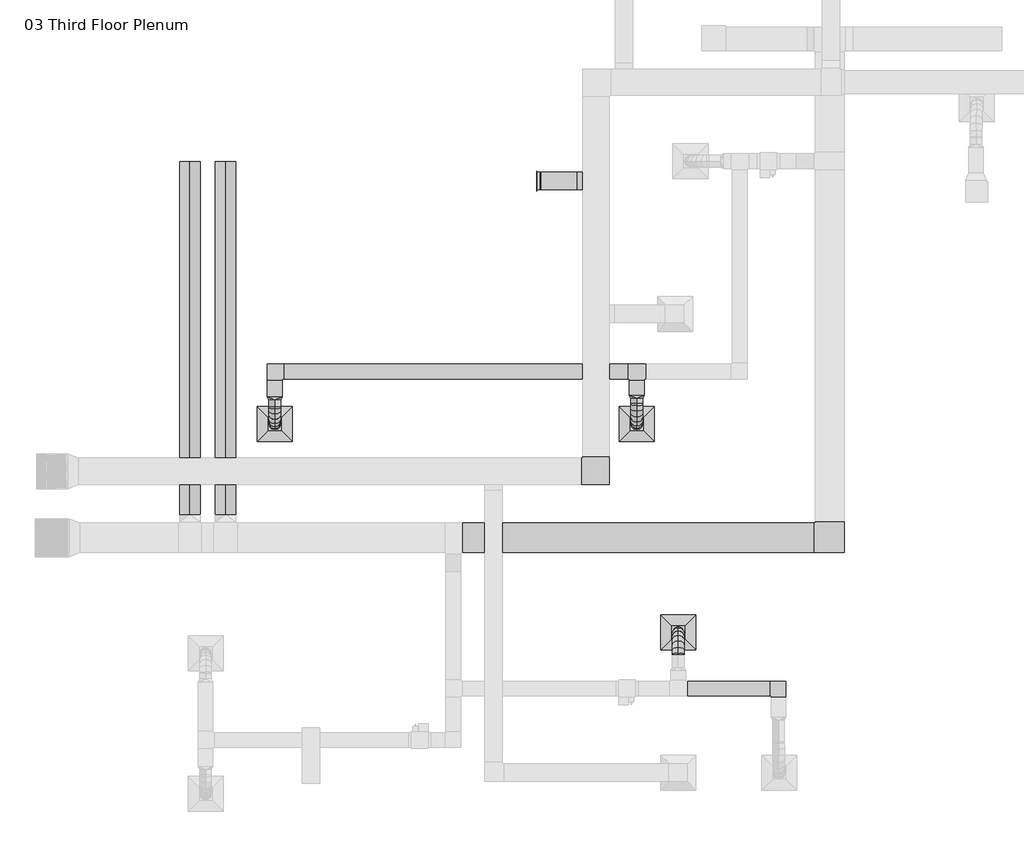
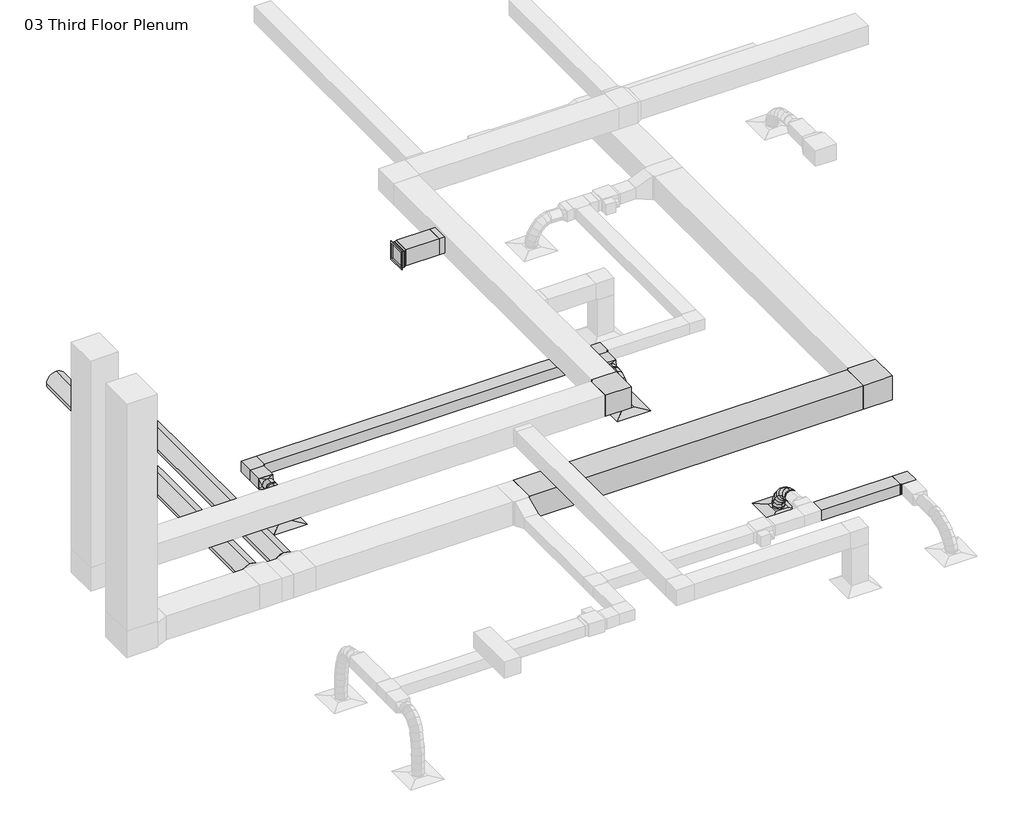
# One storey, part 3 of 9: 14 duct segments, 9 duct fittings, 4 air terminals.
"""IFC4 building model written with IfcOpenShell, lengths in millimetres."""

from ifc_helpers import new_model, si_unit, point, frame, frame_2d, origin, place, context, project, spatial, polyline, circle_curve, ellipse_curve, trimmed, segment, composite_curve, outline, extrude, transform, mapped, element, save
from ifc_brep_helpers import plane_surface, cylinder_surface, advanced_brep
from components import return_grille_rectangular_hosted_d30_returngrille_5679211a, supply_diffuser_rectangular_face_round_neck_d30_6390248a, rectangular_elbow_mitered_standard_f09b78ec, rectangular_elbow_mitered_standard_946096ac, rectangular_elbow_mitered_standard_3a774ab6, rectangular_takeoff_standard_087f681d, rectangular_tee_standard_b316833c, rectangular_transition_angle_45_degree_1f531e5f, rectangular_to_round_transition_angle_45_degree_e9430680

model = new_model("IFC4")

# Units and contexts
model_context = context("Model", 3, world=origin())
ifc_project = project(units=[si_unit("LENGTHUNIT", "METRE", prefix="MILLI")], contexts=[model_context])

# Site, building, storey
site = spatial("IfcSite", under=ifc_project)
building = spatial("IfcBuilding", under=site)
storey = spatial("IfcBuildingStorey", under=building, Name="03 Third Floor Plenum", Elevation=7620.0)

# Air terminals
placement = place(None, origin())
return_grille_rectangular_hosted_d30_returngrille_shape = return_grille_rectangular_hosted_d30_returngrille_5679211a(model_context)
element("IfcAirTerminal", 1, ObjectType="Return Grille - Rectangular - Hosted : D30_ReturnGrille", at=placement, inside=storey, context=model_context, shape_type="MappedRepresentation", body=[
    mapped(return_grille_rectangular_hosted_d30_returngrille_shape, transform((-8996.1542617, 4844.6964495, 8592.9638841), x_axis=(0.0, 0.0, 1.0), y_axis=(0.0, 1.0, 0.0), z_axis=(-1.0, 0.0, 0.0))),
])
supply_diffuser_rectangular_face_round_neck_d30_shape = supply_diffuser_rectangular_face_round_neck_d30_6390248a(model_context)
element("IfcAirTerminal", 2, ObjectType="Supply Diffuser - Rectangular Face Round Neck : D30_SupplyDiffuser_24x24 8 Neck", at=placement, inside=storey, context=model_context, shape_type="MappedRepresentation", body=[
    mapped(supply_diffuser_rectangular_face_round_neck_d30_shape, transform((-7262.3576996, 624.7206694, 7620.0), x_axis=(1.0, 0.0, 0.0), y_axis=(0.0, 1.0, 0.0), z_axis=(0.0, 0.0, 1.0))),
])
element("IfcAirTerminal", 3, ObjectType="Supply Diffuser - Rectangular Face Round Neck : D30_SupplyDiffuser_24x24 8 Neck", at=placement, inside=storey, context=model_context, shape_type="MappedRepresentation", body=[
    mapped(supply_diffuser_rectangular_face_round_neck_d30_shape, transform((-13550.923366, 624.7206694, 7620.0), x_axis=(1.0, 0.0, 0.0), y_axis=(0.0, 1.0, 0.0), z_axis=(0.0, 0.0, 1.0))),
])
element("IfcAirTerminal", 4, ObjectType="Supply Diffuser - Rectangular Face Round Neck : D30_SupplyDiffuser_24x24 8 Neck", at=placement, inside=storey, context=model_context, shape_type="MappedRepresentation", body=[
    mapped(supply_diffuser_rectangular_face_round_neck_d30_shape, transform((-6540.6685181, -2999.7828325, 7620.0), x_axis=(1.0, 0.0, 0.0), y_axis=(0.0, 1.0, 0.0), z_axis=(0.0, 0.0, 1.0))),
])

# Duct fittings
rectangular_elbow_mitered_standard_shape = rectangular_elbow_mitered_standard_f09b78ec(model_context)
element("IfcDuctFitting", 5, ObjectType="Rectangular Elbow - Mitered : Standard", at=placement, inside=storey, context=model_context, shape_type="MappedRepresentation", body=[
    mapped(rectangular_elbow_mitered_standard_shape, transform((-13550.923366, 1533.3101985, 8077.2), x_axis=(-1.0, 0.0, 0.0), y_axis=(0.0, -1.0, 0.0), z_axis=(0.0, 0.0, 1.0))),
])
element("IfcDuctFitting", 6, ObjectType="Rectangular Elbow - Mitered : Standard", at=placement, inside=storey, context=model_context, shape_type="MappedRepresentation", body=[
    mapped(rectangular_elbow_mitered_standard_shape, transform((-4797.9653729, -3975.0664214, 8077.2), x_axis=(0.0, 1.0, 0.0), y_axis=(-1.0, 0.0, 0.0), z_axis=(0.0, 0.0, 1.0))),
])
rectangular_elbow_mitered_standard_2_shape = rectangular_elbow_mitered_standard_946096ac(model_context)
element("IfcDuctFitting", 7, ObjectType="Rectangular Elbow - Mitered : Standard", at=placement, inside=storey, context=model_context, shape_type="MappedRepresentation", body=[
    mapped(rectangular_elbow_mitered_standard_2_shape, transform((-3908.2167617, -1355.9265825, 8077.2), x_axis=(1.0, 0.0, 0.0), y_axis=(0.0, 1.0, 0.0), z_axis=(0.0, 0.0, 1.0))),
])
rectangular_elbow_mitered_standard_3_shape = rectangular_elbow_mitered_standard_3a774ab6(model_context)
element("IfcDuctFitting", 8, ObjectType="Rectangular Elbow - Mitered : Standard", at=placement, inside=storey, context=model_context, shape_type="MappedRepresentation", body=[
    mapped(rectangular_elbow_mitered_standard_3_shape, transform((-7972.5142705, -201.3156743, 8610.6), x_axis=(1.0, 0.0, 0.0), y_axis=(0.0, 1.0, 0.0), z_axis=(0.0, 0.0, 1.0))),
])
rectangular_takeoff_standard_shape = rectangular_takeoff_standard_087f681d(model_context)
element("IfcDuctFitting", 9, ObjectType="Rectangular Takeoff : Standard", at=placement, inside=storey, context=model_context, shape_type="MappedRepresentation", body=[
    mapped(rectangular_takeoff_standard_shape, transform((-8201.1142705, 4844.6964495, 8610.6), x_axis=(-1.0, 0.0, 0.0), y_axis=(0.0, 1.0, 0.0), z_axis=(0.0, 0.0, -1.0))),
])
rectangular_tee_standard_shape = rectangular_tee_standard_b316833c(model_context)
element("IfcDuctFitting", 10, ObjectType="Rectangular Tee : Standard", at=placement, inside=storey, context=model_context, shape_type="MappedRepresentation", body=[
    mapped(rectangular_tee_standard_shape, transform((-7262.3576996, 1533.3101985, 8077.2), x_axis=(1.0, 0.0, 0.0), y_axis=(0.0, 1.0, 0.0), z_axis=(0.0, 0.0, 1.0))),
])
rectangular_transition_angle_45_degree_shape = rectangular_transition_angle_45_degree_1f531e5f(model_context)
element("IfcDuctFitting", 11, ObjectType="Rectangular Transition - Angle : 45 Degree", at=placement, inside=storey, context=model_context, shape_type="MappedRepresentation", body=[
    mapped(rectangular_transition_angle_45_degree_shape, transform((-8944.0642705, 4844.6964495, 8592.9638841), x_axis=(1.0, 0.0, 0.0), y_axis=(0.0, 0.0, -1.0), z_axis=(0.0, 1.0, 0.0))),
])
rectangular_to_round_transition_angle_45_degree_shape = rectangular_to_round_transition_angle_45_degree_e9430680(model_context)
element("IfcDuctFitting", 12, ObjectType="Rectangular to Round Transition - Angle : 45 Degree", at=placement, inside=storey, context=model_context, shape_type="MappedRepresentation", body=[
    mapped(rectangular_to_round_transition_angle_45_degree_shape, transform((-7262.3576996, 1126.9101985, 8077.2), x_axis=(0.0, -1.0, 0.0), y_axis=(1.0, 0.0, 0.0), z_axis=(0.0, 0.0, 1.0))),
])
element("IfcDuctFitting", 13, ObjectType="Rectangular to Round Transition - Angle : 45 Degree", at=placement, inside=storey, context=model_context, shape_type="MappedRepresentation", body=[
    mapped(rectangular_to_round_transition_angle_45_degree_shape, transform((-13550.923366, 1101.5101985, 8077.2), x_axis=(0.0, -1.0, 0.0), y_axis=(1.0, 0.0, 0.0), z_axis=(0.0, 0.0, 1.0))),
])

# Duct segments
element("IfcDuctSegment", 14, ObjectType="Flex - Round", at=placement, inside=storey, context=model_context, shape_type="AdvancedBrep", body=[
    advanced_brep(
    [(-7160.7576996, 974.5101985, 8077.2), (-7262.3576996, 974.5101985, 7975.6), (-7363.9576996, 974.5101985, 8077.2), (-7262.3576996, 974.5101985, 8178.8), (-7160.7576996, 954.6137948, 8077.2), (-7262.3576996, 967.523729, 7975.6), (-7363.9576996, 954.6137948, 8077.2), (-7262.3576996, 941.7038606, 8178.8), (-7160.7576996, 624.7206694, 7673.975), (-7262.3576996, 523.1206694, 7673.975), (-7363.9576996, 624.7206694, 7673.975), (-7262.3576996, 726.3206694, 7673.975), (-7160.7576996, 886.8173824, 8059.6879776), (-7262.3576996, 925.6757316, 7964.7905332), (-7363.9576996, 886.8173824, 8059.6879776), (-7262.3576996, 847.9590332, 8154.585422), (-7160.7576996, 804.7424491, 8012.2009728), (-7262.3576996, 866.5409581, 7930.5762712), (-7363.9576996, 804.7424491, 8012.2009728), (-7262.3576996, 742.9439401, 8093.8256744), (-7160.7576996, 732.8903549, 7942.3125791), (-7262.3576996, 811.2876614, 7876.8330338), (-7363.9576996, 732.8903549, 7942.3125791), (-7262.3576996, 654.4930484, 8007.7921243), (-7160.7576996, 675.866056, 7857.59639), (-7262.3576996, 765.9701374, 7809.5086123), (-7363.9576996, 675.866056, 7857.59639), (-7262.3576996, 585.7619746, 7905.6841677), (-7160.7576996, 638.2745087, 7765.6259991), (-7262.3576996, 736.4371349, 7737.2540239), (-7363.9576996, 638.2745087, 7765.6259991), (-7262.3576996, 540.1118825, 7793.9979744), (-7160.7576996, 624.7206694, 7688.8384969), (-7262.3576996, 726.3206694, 7679.9405129), (-7363.9576996, 624.7206694, 7688.8384969), (-7262.3576996, 523.1206694, 7697.736481)],
    [
        (0, 1, circle_curve(frame((-7262.3576996, 974.5101985, 8077.2), z_axis=(0.0, 1.0, 0.0), x_axis=(1.0, 0.0, 0.0)), 101.6)),
        (1, 2, circle_curve(frame((-7262.3576996, 974.5101985, 8077.2), z_axis=(0.0, 1.0, 0.0), x_axis=(1.0, 0.0, 0.0)), 101.6)),
        (2, 3, circle_curve(frame((-7262.3576996, 974.5101985, 8077.2), z_axis=(0.0, 1.0, 0.0), x_axis=(1.0, 0.0, 0.0)), 101.6)),
        (3, 0, circle_curve(frame((-7262.3576996, 974.5101985, 8077.2), z_axis=(0.0, 1.0, 0.0), x_axis=(1.0, 0.0, 0.0)), 101.6)),
        (0, 4),
        (4, 5, ellipse_curve(frame((-7262.3576996, 954.6137948, 8077.2), z_axis=(0.0, 0.9920235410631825, 0.12605274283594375), x_axis=(0.0, 0.1260527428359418, -0.9920235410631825)), 102.4169244, 101.6)),
        (5, 1),
        (5, 6, ellipse_curve(frame((-7262.3576996, 954.6137948, 8077.2), z_axis=(0.0, 0.9920235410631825, 0.12605274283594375), x_axis=(0.0, 0.1260527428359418, -0.9920235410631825)), 102.4169244, 101.6)),
        (6, 2),
        (6, 7, ellipse_curve(frame((-7262.3576996, 954.6137948, 8077.2), z_axis=(0.0, 0.9920235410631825, 0.12605274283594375), x_axis=(0.0, 0.1260527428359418, -0.9920235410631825)), 102.4169244, 101.6)),
        (7, 3),
        (7, 4, ellipse_curve(frame((-7262.3576996, 954.6137948, 8077.2), z_axis=(0.0, 0.9920235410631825, 0.12605274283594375), x_axis=(0.0, 0.1260527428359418, -0.9920235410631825)), 102.4169244, 101.6)),
        (8, 9, circle_curve(frame((-7262.3576996, 624.7206694, 7673.975), z_axis=(0.0, 0.0, -1.0), x_axis=(1.0, 0.0, 0.0)), 101.6)),
        (9, 10, circle_curve(frame((-7262.3576996, 624.7206694, 7673.975), z_axis=(0.0, 0.0, -1.0), x_axis=(1.0, 0.0, 0.0)), 101.6)),
        (10, 11, circle_curve(frame((-7262.3576996, 624.7206694, 7673.975), z_axis=(0.0, 0.0, -1.0), x_axis=(1.0, 0.0, 0.0)), 101.6)),
        (11, 8, circle_curve(frame((-7262.3576996, 624.7206694, 7673.975), z_axis=(0.0, 0.0, -1.0), x_axis=(1.0, 0.0, 0.0)), 101.6)),
        (4, 12),
        (12, 13, ellipse_curve(frame((-7262.3576996, 886.8173824, 8059.6879776), z_axis=(0.0, 0.9254215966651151, 0.37893913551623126), x_axis=(0.0, 0.37893913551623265, -0.9254215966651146)), 102.5450938, 101.6)),
        (13, 5),
        (13, 14, ellipse_curve(frame((-7262.3576996, 886.8173824, 8059.6879776), z_axis=(0.0, 0.9254215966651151, 0.37893913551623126), x_axis=(0.0, 0.37893913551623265, -0.9254215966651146)), 102.5450938, 101.6)),
        (14, 6),
        (14, 15, ellipse_curve(frame((-7262.3576996, 886.8173824, 8059.6879776), z_axis=(0.0, 0.9254215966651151, 0.37893913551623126), x_axis=(0.0, 0.37893913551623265, -0.9254215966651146)), 102.5450938, 101.6)),
        (15, 7),
        (15, 12, ellipse_curve(frame((-7262.3576996, 886.8173824, 8059.6879776), z_axis=(0.0, 0.9254215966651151, 0.37893913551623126), x_axis=(0.0, 0.37893913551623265, -0.9254215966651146)), 102.5450938, 101.6)),
        (12, 16),
        (16, 17, ellipse_curve(frame((-7262.3576996, 804.7424491, 8012.2009728), z_axis=(0.0, 0.7972725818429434, 0.6036194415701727), x_axis=(0.0, 0.6036194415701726, -0.7972725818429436)), 102.3799181, 101.6)),
        (17, 13),
        (17, 18, ellipse_curve(frame((-7262.3576996, 804.7424491, 8012.2009728), z_axis=(0.0, 0.7972725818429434, 0.6036194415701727), x_axis=(0.0, 0.6036194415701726, -0.7972725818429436)), 102.3799181, 101.6)),
        (18, 14),
        (18, 19, ellipse_curve(frame((-7262.3576996, 804.7424491, 8012.2009728), z_axis=(0.0, 0.7972725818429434, 0.6036194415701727), x_axis=(0.0, 0.6036194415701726, -0.7972725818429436)), 102.3799181, 101.6)),
        (19, 15),
        (19, 16, ellipse_curve(frame((-7262.3576996, 804.7424491, 8012.2009728), z_axis=(0.0, 0.7972725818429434, 0.6036194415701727), x_axis=(0.0, 0.6036194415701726, -0.7972725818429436)), 102.3799181, 101.6)),
        (16, 20),
        (20, 21, ellipse_curve(frame((-7262.3576996, 732.8903549, 7942.3125791), z_axis=(0.0, 0.6410417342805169, 0.7675060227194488), x_axis=(0.0, 0.7675060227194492, -0.6410417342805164)), 102.1455262, 101.6)),
        (21, 17),
        (21, 22, ellipse_curve(frame((-7262.3576996, 732.8903549, 7942.3125791), z_axis=(0.0, 0.6410417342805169, 0.7675060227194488), x_axis=(0.0, 0.7675060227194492, -0.6410417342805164)), 102.1455262, 101.6)),
        (22, 18),
        (22, 23, ellipse_curve(frame((-7262.3576996, 732.8903549, 7942.3125791), z_axis=(0.0, 0.6410417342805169, 0.7675060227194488), x_axis=(0.0, 0.7675060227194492, -0.6410417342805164)), 102.1455262, 101.6)),
        (23, 19),
        (23, 20, ellipse_curve(frame((-7262.3576996, 732.8903549, 7942.3125791), z_axis=(0.0, 0.6410417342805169, 0.7675060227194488), x_axis=(0.0, 0.7675060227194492, -0.6410417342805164)), 102.1455262, 101.6)),
        (20, 24),
        (24, 25, ellipse_curve(frame((-7262.3576996, 675.866056, 7857.59639), z_axis=(0.0, 0.4708341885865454, 0.8822217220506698), x_axis=(0.0, 0.8822217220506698, -0.4708341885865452)), 102.1331476, 101.6)),
        (25, 21),
        (25, 26, ellipse_curve(frame((-7262.3576996, 675.866056, 7857.59639), z_axis=(0.0, 0.4708341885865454, 0.8822217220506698), x_axis=(0.0, 0.8822217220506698, -0.4708341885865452)), 102.1331476, 101.6)),
        (26, 22),
        (26, 27, ellipse_curve(frame((-7262.3576996, 675.866056, 7857.59639), z_axis=(0.0, 0.4708341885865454, 0.8822217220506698), x_axis=(0.0, 0.8822217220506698, -0.4708341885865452)), 102.1331476, 101.6)),
        (27, 23),
        (27, 24, ellipse_curve(frame((-7262.3576996, 675.866056, 7857.59639), z_axis=(0.0, 0.4708341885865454, 0.8822217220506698), x_axis=(0.0, 0.8822217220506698, -0.4708341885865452)), 102.1331476, 101.6)),
        (24, 28),
        (28, 29, ellipse_curve(frame((-7262.3576996, 638.2745087, 7765.6259991), z_axis=(0.0, 0.27766505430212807, 0.9606779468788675), x_axis=(0.0, 0.9606779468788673, -0.27766505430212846)), 102.1805762, 101.6)),
        (29, 25),
        (29, 30, ellipse_curve(frame((-7262.3576996, 638.2745087, 7765.6259991), z_axis=(0.0, 0.27766505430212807, 0.9606779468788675), x_axis=(0.0, 0.9606779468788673, -0.27766505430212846)), 102.1805762, 101.6)),
        (30, 26),
        (30, 31, ellipse_curve(frame((-7262.3576996, 638.2745087, 7765.6259991), z_axis=(0.0, 0.27766505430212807, 0.9606779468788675), x_axis=(0.0, 0.9606779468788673, -0.27766505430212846)), 102.1805762, 101.6)),
        (31, 27),
        (31, 28, ellipse_curve(frame((-7262.3576996, 638.2745087, 7765.6259991), z_axis=(0.0, 0.27766505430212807, 0.9606779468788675), x_axis=(0.0, 0.9606779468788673, -0.27766505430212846)), 102.1805762, 101.6)),
        (28, 32),
        (32, 33, ellipse_curve(frame((-7262.3576996, 624.7206694, 7688.8384969), z_axis=(0.0, 0.08724463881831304, 0.9961869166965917), x_axis=(0.0, 0.9961869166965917, -0.08724463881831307)), 101.9888921, 101.6)),
        (33, 29),
        (33, 34, ellipse_curve(frame((-7262.3576996, 624.7206694, 7688.8384969), z_axis=(0.0, 0.08724463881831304, 0.9961869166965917), x_axis=(0.0, 0.9961869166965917, -0.08724463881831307)), 101.9888921, 101.6)),
        (34, 30),
        (34, 35, ellipse_curve(frame((-7262.3576996, 624.7206694, 7688.8384969), z_axis=(0.0, 0.08724463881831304, 0.9961869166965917), x_axis=(0.0, 0.9961869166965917, -0.08724463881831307)), 101.9888921, 101.6)),
        (35, 31),
        (35, 32, ellipse_curve(frame((-7262.3576996, 624.7206694, 7688.8384969), z_axis=(0.0, 0.08724463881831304, 0.9961869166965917), x_axis=(0.0, 0.9961869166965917, -0.08724463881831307)), 101.9888921, 101.6)),
        (32, 8),
        (11, 33),
        (10, 34),
        (9, 35),
    ],
    [
        plane_surface(frame((-7363.9576996, 974.5101985, 8077.2), z_axis=(0.0, 1.0, 0.0), x_axis=(0.0, 0.0, -1.0))),
        cylinder_surface(frame((-7262.3576996, 974.5101985, 8077.2), z_axis=(0.0, 1.0, 0.0), x_axis=(1.0, 0.0, 0.0)), 101.6),
        plane_surface(frame((-7262.3576996, 523.1206694, 7673.975), z_axis=(0.0, 0.0, -1.0), x_axis=(-1.0, 0.0, 0.0))),
        cylinder_surface(frame((-7262.3576996, 954.6137948, 8077.2), z_axis=(0.0, 0.9682214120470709, 0.2500945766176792), x_axis=(1.0, 0.0, 0.0)), 101.6),
        cylinder_surface(frame((-7262.3576996, 886.8173824, 8059.6879776), z_axis=(0.0, 0.8655637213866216, 0.5007988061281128), x_axis=(1.0, 0.0, 0.0)), 101.6),
        cylinder_surface(frame((-7262.3576996, 804.7424491, 8012.2009728), z_axis=(0.0, 0.7168343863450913, 0.6972434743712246), x_axis=(1.0, 0.0, 0.0)), 101.6),
        cylinder_surface(frame((-7262.3576996, 732.8903549, 7942.3125791), z_axis=(0.0, 0.5584018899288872, 0.8295705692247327), x_axis=(1.0, 0.0, 0.0)), 101.6),
        cylinder_surface(frame((-7262.3576996, 675.866056, 7857.59639), z_axis=(0.0, 0.3783508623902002, 0.925662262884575), x_axis=(1.0, 0.0, 0.0)), 101.6),
        cylinder_surface(frame((-7262.3576996, 638.2745087, 7765.6259991), z_axis=(0.0, 0.1738239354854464, 0.9847767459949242), x_axis=(1.0, 0.0, 0.0)), 101.6),
        cylinder_surface(frame((-7262.3576996, 624.7206694, 7688.8384969), z_axis=(0.0, 0.0, 1.0), x_axis=(1.0, 0.0, 0.0)), 101.6),
    ],
    [
        (0, [[1, 2, 3, 4]]),
        (1, [[-1, 5, 6, 7]]),
        (1, [[-2, -7, 8, 9]]),
        (1, [[-3, -9, 10, 11]]),
        (1, [[-4, -11, 12, -5]]),
        (2, [[13, 14, 15, 16]]),
        (3, [[-6, 17, 18, 19]]),
        (3, [[-8, -19, 20, 21]]),
        (3, [[-10, -21, 22, 23]]),
        (3, [[-12, -23, 24, -17]]),
        (4, [[-18, 25, 26, 27]]),
        (4, [[-20, -27, 28, 29]]),
        (4, [[-22, -29, 30, 31]]),
        (4, [[-24, -31, 32, -25]]),
        (5, [[-26, 33, 34, 35]]),
        (5, [[-28, -35, 36, 37]]),
        (5, [[-30, -37, 38, 39]]),
        (5, [[-32, -39, 40, -33]]),
        (6, [[-34, 41, 42, 43]]),
        (6, [[-36, -43, 44, 45]]),
        (6, [[-38, -45, 46, 47]]),
        (6, [[-40, -47, 48, -41]]),
        (7, [[-42, 49, 50, 51]]),
        (7, [[-44, -51, 52, 53]]),
        (7, [[-46, -53, 54, 55]]),
        (7, [[-48, -55, 56, -49]]),
        (8, [[-50, 57, 58, 59]]),
        (8, [[-52, -59, 60, 61]]),
        (8, [[-54, -61, 62, 63]]),
        (8, [[-56, -63, 64, -57]]),
        (9, [[-58, 65, -16, 66]]),
        (9, [[-60, -66, -15, 67]]),
        (9, [[-62, -67, -14, 68]]),
        (9, [[-64, -68, -13, -65]]),
    ],
),
])
element("IfcDuctSegment", 15, ObjectType="Flex - Round", at=placement, inside=storey, context=model_context, shape_type="AdvancedBrep", body=[
    advanced_brep(
    [(-13449.323366, 923.7101985, 8077.2), (-13550.923366, 923.7101985, 7975.6), (-13652.523366, 923.7101985, 8077.2), (-13550.923366, 923.7101985, 8178.8), (-13449.323366, 901.1810308, 8077.2), (-13550.923366, 916.8599025, 7975.6), (-13652.523366, 901.1810308, 8077.2), (-13550.923366, 885.5021591, 8178.8), (-13449.323366, 624.7206694, 7673.975), (-13550.923366, 523.1206694, 7673.975), (-13652.523366, 624.7206694, 7673.975), (-13550.923366, 726.3206694, 7673.975), (-13449.323366, 843.4631485, 8058.951417), (-13550.923366, 888.4705663, 7966.6241828), (-13652.523366, 843.4631485, 8058.951417), (-13550.923366, 798.4557307, 8151.2786511), (-13449.323366, 771.8268074, 8009.8439788), (-13550.923366, 840.6045983, 7933.8115764), (-13652.523366, 771.8268074, 8009.8439788), (-13550.923366, 703.0490166, 8085.8763812), (-13449.323366, 711.4677822, 7938.3351517), (-13550.923366, 795.7972224, 7880.7271723), (-13652.523366, 711.4677822, 7938.3351517), (-13550.923366, 627.138342, 7995.9431312), (-13449.323366, 665.0526796, 7852.8824021), (-13550.923366, 758.7301852, 7812.4847236), (-13652.523366, 665.0526796, 7852.8824021), (-13550.923366, 571.3751741, 7893.2800806), (-13449.323366, 635.2481064, 7761.9431961), (-13550.923366, 734.6327272, 7738.9589704), (-13652.523366, 635.2481064, 7761.9431961), (-13550.923366, 535.8634856, 7784.9274217), (-13449.323366, 624.7206694, 7686.0476558), (-13550.923366, 726.3206694, 7679.034782), (-13652.523366, 624.7206694, 7686.0476558), (-13550.923366, 523.1206694, 7693.0605297)],
    [
        (0, 1, circle_curve(frame((-13550.923366, 923.7101985, 8077.2), z_axis=(0.0, 1.0, 0.0), x_axis=(1.0, 0.0, 0.0)), 101.6)),
        (1, 2, circle_curve(frame((-13550.923366, 923.7101985, 8077.2), z_axis=(0.0, 1.0, 0.0), x_axis=(1.0, 0.0, 0.0)), 101.6)),
        (2, 3, circle_curve(frame((-13550.923366, 923.7101985, 8077.2), z_axis=(0.0, 1.0, 0.0), x_axis=(1.0, 0.0, 0.0)), 101.6)),
        (3, 0, circle_curve(frame((-13550.923366, 923.7101985, 8077.2), z_axis=(0.0, 1.0, 0.0), x_axis=(1.0, 0.0, 0.0)), 101.6)),
        (0, 4),
        (4, 5, ellipse_curve(frame((-13550.923366, 901.1810308, 8077.2), z_axis=(0.0, 0.9883012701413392, 0.15251425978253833), x_axis=(0.0, 0.15251425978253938, -0.9883012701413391)), 102.8026606, 101.6)),
        (5, 1),
        (5, 6, ellipse_curve(frame((-13550.923366, 901.1810308, 8077.2), z_axis=(0.0, 0.9883012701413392, 0.15251425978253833), x_axis=(0.0, 0.15251425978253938, -0.9883012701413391)), 102.8026606, 101.6)),
        (6, 2),
        (6, 7, ellipse_curve(frame((-13550.923366, 901.1810308, 8077.2), z_axis=(0.0, 0.9883012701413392, 0.15251425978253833), x_axis=(0.0, 0.15251425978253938, -0.9883012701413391)), 102.8026606, 101.6)),
        (7, 3),
        (7, 4, ellipse_curve(frame((-13550.923366, 901.1810308, 8077.2), z_axis=(0.0, 0.9883012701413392, 0.15251425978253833), x_axis=(0.0, 0.15251425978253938, -0.9883012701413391)), 102.8026606, 101.6)),
        (8, 9, circle_curve(frame((-13550.923366, 624.7206694, 7673.975), z_axis=(0.0, 0.0, -1.0), x_axis=(1.0, 0.0, 0.0)), 101.6)),
        (9, 10, circle_curve(frame((-13550.923366, 624.7206694, 7673.975), z_axis=(0.0, 0.0, -1.0), x_axis=(1.0, 0.0, 0.0)), 101.6)),
        (10, 11, circle_curve(frame((-13550.923366, 624.7206694, 7673.975), z_axis=(0.0, 0.0, -1.0), x_axis=(1.0, 0.0, 0.0)), 101.6)),
        (11, 8, circle_curve(frame((-13550.923366, 624.7206694, 7673.975), z_axis=(0.0, 0.0, -1.0), x_axis=(1.0, 0.0, 0.0)), 101.6)),
        (4, 12),
        (12, 13, ellipse_curve(frame((-13550.923366, 843.4631485, 8058.951417), z_axis=(0.0, 0.8988844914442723, 0.43818565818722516), x_axis=(0.0, 0.43818565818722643, -0.8988844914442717)), 102.7131239, 101.6)),
        (13, 5),
        (13, 14, ellipse_curve(frame((-13550.923366, 843.4631485, 8058.951417), z_axis=(0.0, 0.8988844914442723, 0.43818565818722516), x_axis=(0.0, 0.43818565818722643, -0.8988844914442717)), 102.7131239, 101.6)),
        (14, 6),
        (14, 15, ellipse_curve(frame((-13550.923366, 843.4631485, 8058.951417), z_axis=(0.0, 0.8988844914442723, 0.43818565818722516), x_axis=(0.0, 0.43818565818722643, -0.8988844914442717)), 102.7131239, 101.6)),
        (15, 7),
        (15, 12, ellipse_curve(frame((-13550.923366, 843.4631485, 8058.951417), z_axis=(0.0, 0.8988844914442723, 0.43818565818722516), x_axis=(0.0, 0.43818565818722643, -0.8988844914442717)), 102.7131239, 101.6)),
        (12, 16),
        (16, 17, ellipse_curve(frame((-13550.923366, 771.8268074, 8009.8439788), z_axis=(0.0, 0.7416009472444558, 0.6708412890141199), x_axis=(0.0, 0.6708412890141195, -0.741600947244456)), 102.5246835, 101.6)),
        (17, 13),
        (17, 18, ellipse_curve(frame((-13550.923366, 771.8268074, 8009.8439788), z_axis=(0.0, 0.7416009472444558, 0.6708412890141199), x_axis=(0.0, 0.6708412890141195, -0.741600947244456)), 102.5246835, 101.6)),
        (18, 14),
        (18, 19, ellipse_curve(frame((-13550.923366, 771.8268074, 8009.8439788), z_axis=(0.0, 0.7416009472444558, 0.6708412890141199), x_axis=(0.0, 0.6708412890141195, -0.741600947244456)), 102.5246835, 101.6)),
        (19, 15),
        (19, 16, ellipse_curve(frame((-13550.923366, 771.8268074, 8009.8439788), z_axis=(0.0, 0.7416009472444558, 0.6708412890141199), x_axis=(0.0, 0.6708412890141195, -0.741600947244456)), 102.5246835, 101.6)),
        (16, 20),
        (20, 21, ellipse_curve(frame((-13550.923366, 711.4677822, 7938.3351517), z_axis=(0.0, 0.5640761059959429, 0.8257228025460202), x_axis=(0.0, 0.8257228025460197, -0.5640761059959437)), 102.1280265, 101.6)),
        (21, 17),
        (21, 22, ellipse_curve(frame((-13550.923366, 711.4677822, 7938.3351517), z_axis=(0.0, 0.5640761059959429, 0.8257228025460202), x_axis=(0.0, 0.8257228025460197, -0.5640761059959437)), 102.1280265, 101.6)),
        (22, 18),
        (22, 23, ellipse_curve(frame((-13550.923366, 711.4677822, 7938.3351517), z_axis=(0.0, 0.5640761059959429, 0.8257228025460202), x_axis=(0.0, 0.8257228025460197, -0.5640761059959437)), 102.1280265, 101.6)),
        (23, 19),
        (23, 20, ellipse_curve(frame((-13550.923366, 711.4677822, 7938.3351517), z_axis=(0.0, 0.5640761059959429, 0.8257228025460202), x_axis=(0.0, 0.8257228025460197, -0.5640761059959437)), 102.1280265, 101.6)),
        (20, 24),
        (24, 25, ellipse_curve(frame((-13550.923366, 665.0526796, 7852.8824021), z_axis=(0.0, 0.39599006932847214, 0.9182547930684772), x_axis=(0.0, 0.918254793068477, -0.3959900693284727)), 102.016898, 101.6)),
        (25, 21),
        (25, 26, ellipse_curve(frame((-13550.923366, 665.0526796, 7852.8824021), z_axis=(0.0, 0.39599006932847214, 0.9182547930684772), x_axis=(0.0, 0.918254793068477, -0.3959900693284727)), 102.016898, 101.6)),
        (26, 22),
        (26, 27, ellipse_curve(frame((-13550.923366, 665.0526796, 7852.8824021), z_axis=(0.0, 0.39599006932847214, 0.9182547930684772), x_axis=(0.0, 0.918254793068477, -0.3959900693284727)), 102.016898, 101.6)),
        (27, 23),
        (27, 24, ellipse_curve(frame((-13550.923366, 665.0526796, 7852.8824021), z_axis=(0.0, 0.39599006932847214, 0.9182547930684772), x_axis=(0.0, 0.918254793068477, -0.3959900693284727)), 102.016898, 101.6)),
        (24, 28),
        (28, 29, ellipse_curve(frame((-13550.923366, 635.2481064, 7761.9431961), z_axis=(0.0, 0.22531846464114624, 0.9742851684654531), x_axis=(0.0, 0.9742851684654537, -0.22531846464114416)), 102.0077325, 101.6)),
        (29, 25),
        (29, 30, ellipse_curve(frame((-13550.923366, 635.2481064, 7761.9431961), z_axis=(0.0, 0.22531846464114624, 0.9742851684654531), x_axis=(0.0, 0.9742851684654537, -0.22531846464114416)), 102.0077325, 101.6)),
        (30, 26),
        (30, 31, ellipse_curve(frame((-13550.923366, 635.2481064, 7761.9431961), z_axis=(0.0, 0.22531846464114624, 0.9742851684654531), x_axis=(0.0, 0.9742851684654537, -0.22531846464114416)), 102.0077325, 101.6)),
        (31, 27),
        (31, 28, ellipse_curve(frame((-13550.923366, 635.2481064, 7761.9431961), z_axis=(0.0, 0.22531846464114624, 0.9742851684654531), x_axis=(0.0, 0.9742851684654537, -0.22531846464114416)), 102.0077325, 101.6)),
        (28, 32),
        (32, 33, ellipse_curve(frame((-13550.923366, 624.7206694, 7686.0476558), z_axis=(0.0, 0.06886050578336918, 0.9976262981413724), x_axis=(0.0, 0.9976262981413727, -0.06886050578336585)), 101.8417419, 101.6)),
        (33, 29),
        (33, 34, ellipse_curve(frame((-13550.923366, 624.7206694, 7686.0476558), z_axis=(0.0, 0.06886050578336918, 0.9976262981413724), x_axis=(0.0, 0.9976262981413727, -0.06886050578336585)), 101.8417419, 101.6)),
        (34, 30),
        (34, 35, ellipse_curve(frame((-13550.923366, 624.7206694, 7686.0476558), z_axis=(0.0, 0.06886050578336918, 0.9976262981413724), x_axis=(0.0, 0.9976262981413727, -0.06886050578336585)), 101.8417419, 101.6)),
        (35, 31),
        (35, 32, ellipse_curve(frame((-13550.923366, 624.7206694, 7686.0476558), z_axis=(0.0, 0.06886050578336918, 0.9976262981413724), x_axis=(0.0, 0.9976262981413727, -0.06886050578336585)), 101.8417419, 101.6)),
        (32, 8),
        (11, 33),
        (10, 34),
        (9, 35),
    ],
    [
        plane_surface(frame((-13652.523366, 923.7101985, 8077.2), z_axis=(0.0, 1.0, 0.0), x_axis=(0.0, 0.0, -1.0))),
        cylinder_surface(frame((-13550.923366, 923.7101985, 8077.2), z_axis=(0.0, 1.0, 0.0), x_axis=(1.0, 0.0, 0.0)), 101.6),
        plane_surface(frame((-13550.923366, 523.1206694, 7673.975), z_axis=(0.0, 0.0, -1.0), x_axis=(-1.0, 0.0, 0.0))),
        cylinder_surface(frame((-13550.923366, 901.1810308, 8077.2), z_axis=(0.0, 0.9534788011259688, 0.3014600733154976), x_axis=(1.0, 0.0, 0.0)), 101.6),
        cylinder_surface(frame((-13550.923366, 843.4631485, 8058.951417), z_axis=(0.0, 0.8248073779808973, 0.5654138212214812), x_axis=(1.0, 0.0, 0.0)), 101.6),
        cylinder_surface(frame((-13550.923366, 771.8268074, 8009.8439788), z_axis=(0.0, 0.6450173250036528, 0.7641679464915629), x_axis=(1.0, 0.0, 0.0)), 101.6),
        cylinder_surface(frame((-13550.923366, 711.4677822, 7938.3351517), z_axis=(0.0, 0.4773020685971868, 0.8787392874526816), x_axis=(1.0, 0.0, 0.0)), 101.6),
        cylinder_surface(frame((-13550.923366, 665.0526796, 7852.8824021), z_axis=(0.0, 0.31144159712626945, 0.9502652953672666), x_axis=(1.0, 0.0, 0.0)), 101.6),
        cylinder_surface(frame((-13550.923366, 635.2481064, 7761.9431961), z_axis=(0.0, 0.13739410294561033, 0.9905164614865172), x_axis=(1.0, 0.0, 0.0)), 101.6),
        cylinder_surface(frame((-13550.923366, 624.7206694, 7686.0476558), z_axis=(0.0, 0.0, 1.0), x_axis=(1.0, 0.0, 0.0)), 101.6),
    ],
    [
        (0, [[1, 2, 3, 4]]),
        (1, [[-1, 5, 6, 7]]),
        (1, [[-2, -7, 8, 9]]),
        (1, [[-3, -9, 10, 11]]),
        (1, [[-4, -11, 12, -5]]),
        (2, [[13, 14, 15, 16]]),
        (3, [[-6, 17, 18, 19]]),
        (3, [[-8, -19, 20, 21]]),
        (3, [[-10, -21, 22, 23]]),
        (3, [[-12, -23, 24, -17]]),
        (4, [[-18, 25, 26, 27]]),
        (4, [[-20, -27, 28, 29]]),
        (4, [[-22, -29, 30, 31]]),
        (4, [[-24, -31, 32, -25]]),
        (5, [[-26, 33, 34, 35]]),
        (5, [[-28, -35, 36, 37]]),
        (5, [[-30, -37, 38, 39]]),
        (5, [[-32, -39, 40, -33]]),
        (6, [[-34, 41, 42, 43]]),
        (6, [[-36, -43, 44, 45]]),
        (6, [[-38, -45, 46, 47]]),
        (6, [[-40, -47, 48, -41]]),
        (7, [[-42, 49, 50, 51]]),
        (7, [[-44, -51, 52, 53]]),
        (7, [[-46, -53, 54, 55]]),
        (7, [[-48, -55, 56, -49]]),
        (8, [[-50, 57, 58, 59]]),
        (8, [[-52, -59, 60, 61]]),
        (8, [[-54, -61, 62, 63]]),
        (8, [[-56, -63, 64, -57]]),
        (9, [[-58, 65, -16, 66]]),
        (9, [[-60, -66, -15, 67]]),
        (9, [[-62, -67, -14, 68]]),
        (9, [[-64, -68, -13, -65]]),
    ],
),
])
element("IfcDuctSegment", 16, ObjectType="Flex - Round", at=placement, inside=storey, context=model_context, shape_type="AdvancedBrep", body=[
    advanced_brep(
    [(-6642.2685181, -3390.8664214, 8077.2), (-6540.6685181, -3390.8664214, 7975.6), (-6439.0685181, -3390.8664214, 8077.2), (-6540.6685181, -3390.8664214, 8178.8), (-6642.2685181, -3372.9207549, 8077.2), (-6540.6685181, -3384.0531377, 7975.6), (-6439.0685181, -3372.9207549, 8077.2), (-6540.6685181, -3361.7883722, 8178.8), (-6642.2685181, -2999.7828325, 7673.975), (-6540.6685181, -2898.1828325, 7673.975), (-6439.0685181, -2999.7828325, 7673.975), (-6540.6685181, -3101.3828325, 7673.975), (-6642.2685181, -3296.8826138, 8060.3344121), (-6540.6685181, -3331.4470341, 7963.9317391), (-6439.0685181, -3296.8826138, 8060.3344121), (-6540.6685181, -3262.3181934, 8156.737085), (-6642.2685181, -3206.2556241, 8014.269563), (-6540.6685181, -3262.7810314, 7929.0294539), (-6439.0685181, -3206.2556241, 8014.269563), (-6540.6685181, -3149.7302168, 8099.5096722), (-6642.2685181, -3125.1088018, 7945.8033251), (-6540.6685181, -3198.7224432, 7874.98112), (-6439.0685181, -3125.1088018, 7945.8033251), (-6540.6685181, -3051.4951604, 8016.6255302), (-6642.2685181, -3059.5654962, 7861.7335705), (-6540.6685181, -3146.6347925, 7808.1703912), (-6439.0685181, -3059.5654962, 7861.7335705), (-6540.6685181, -2972.4962, 7915.2967498), (-6642.2685181, -3015.7490567, 7768.8581714), (-6540.6685181, -3112.841004, 7736.5394777), (-6439.0685181, -3015.7490567, 7768.8581714), (-6540.6685181, -2918.6571094, 7801.1768651), (-6642.2685181, -2999.7828325, 7690.8344546), (-6540.6685181, -3101.3828325, 7680.5457051), (-6439.0685181, -2999.7828325, 7690.8344546), (-6540.6685181, -2898.1828325, 7701.1232041)],
    [
        (0, 1, circle_curve(frame((-6540.6685181, -3390.8664214, 8077.2), z_axis=(0.0, -1.0, 0.0), x_axis=(-1.0, 0.0, 0.0)), 101.6)),
        (1, 2, circle_curve(frame((-6540.6685181, -3390.8664214, 8077.2), z_axis=(0.0, -1.0, 0.0), x_axis=(-1.0, 0.0, 0.0)), 101.6)),
        (2, 3, circle_curve(frame((-6540.6685181, -3390.8664214, 8077.2), z_axis=(0.0, -1.0, 0.0), x_axis=(-1.0, 0.0, 0.0)), 101.6)),
        (3, 0, circle_curve(frame((-6540.6685181, -3390.8664214, 8077.2), z_axis=(0.0, -1.0, 0.0), x_axis=(-1.0, 0.0, 0.0)), 101.6)),
        (0, 4),
        (4, 5, ellipse_curve(frame((-6540.6685181, -3372.9207549, 8077.2), z_axis=(0.0, -0.9940506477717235, 0.10891882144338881), x_axis=(0.0, -0.10891882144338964, -0.9940506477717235)), 102.2080718, 101.6)),
        (5, 1),
        (5, 6, ellipse_curve(frame((-6540.6685181, -3372.9207549, 8077.2), z_axis=(0.0, -0.9940506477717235, 0.10891882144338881), x_axis=(0.0, -0.10891882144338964, -0.9940506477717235)), 102.2080718, 101.6)),
        (6, 2),
        (6, 7, ellipse_curve(frame((-6540.6685181, -3372.9207549, 8077.2), z_axis=(0.0, -0.9940506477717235, 0.10891882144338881), x_axis=(0.0, -0.10891882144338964, -0.9940506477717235)), 102.2080718, 101.6)),
        (7, 3),
        (7, 4, ellipse_curve(frame((-6540.6685181, -3372.9207549, 8077.2), z_axis=(0.0, -0.9940506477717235, 0.10891882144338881), x_axis=(0.0, -0.10891882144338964, -0.9940506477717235)), 102.2080718, 101.6)),
        (8, 9, circle_curve(frame((-6540.6685181, -2999.7828325, 7673.975), z_axis=(0.0, 0.0, -1.0), x_axis=(-1.0, 0.0, 0.0)), 101.6)),
        (9, 10, circle_curve(frame((-6540.6685181, -2999.7828325, 7673.975), z_axis=(0.0, 0.0, -1.0), x_axis=(-1.0, 0.0, 0.0)), 101.6)),
        (10, 11, circle_curve(frame((-6540.6685181, -2999.7828325, 7673.975), z_axis=(0.0, 0.0, -1.0), x_axis=(-1.0, 0.0, 0.0)), 101.6)),
        (11, 8, circle_curve(frame((-6540.6685181, -2999.7828325, 7673.975), z_axis=(0.0, 0.0, -1.0), x_axis=(-1.0, 0.0, 0.0)), 101.6)),
        (4, 12),
        (12, 13, ellipse_curve(frame((-6540.6685181, -3296.8826138, 8060.3344121), z_axis=(0.0, -0.9413239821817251, 0.3375043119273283), x_axis=(0.0, -0.337504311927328, -0.9413239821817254)), 102.4117889, 101.6)),
        (13, 5),
        (13, 14, ellipse_curve(frame((-6540.6685181, -3296.8826138, 8060.3344121), z_axis=(0.0, -0.9413239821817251, 0.3375043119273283), x_axis=(0.0, -0.337504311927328, -0.9413239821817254)), 102.4117889, 101.6)),
        (14, 6),
        (14, 15, ellipse_curve(frame((-6540.6685181, -3296.8826138, 8060.3344121), z_axis=(0.0, -0.9413239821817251, 0.3375043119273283), x_axis=(0.0, -0.337504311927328, -0.9413239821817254)), 102.4117889, 101.6)),
        (15, 7),
        (15, 12, ellipse_curve(frame((-6540.6685181, -3296.8826138, 8060.3344121), z_axis=(0.0, -0.9413239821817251, 0.3375043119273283), x_axis=(0.0, -0.337504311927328, -0.9413239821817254)), 102.4117889, 101.6)),
        (12, 16),
        (16, 17, ellipse_curve(frame((-6540.6685181, -3206.2556241, 8014.269563), z_axis=(0.0, -0.8334075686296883, 0.552658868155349), x_axis=(0.0, -0.5526588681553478, -0.8334075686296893)), 102.2790197, 101.6)),
        (17, 13),
        (17, 18, ellipse_curve(frame((-6540.6685181, -3206.2556241, 8014.269563), z_axis=(0.0, -0.8334075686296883, 0.552658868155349), x_axis=(0.0, -0.5526588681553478, -0.8334075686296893)), 102.2790197, 101.6)),
        (18, 14),
        (18, 19, ellipse_curve(frame((-6540.6685181, -3206.2556241, 8014.269563), z_axis=(0.0, -0.8334075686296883, 0.552658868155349), x_axis=(0.0, -0.5526588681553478, -0.8334075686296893)), 102.2790197, 101.6)),
        (19, 15),
        (19, 16, ellipse_curve(frame((-6540.6685181, -3206.2556241, 8014.269563), z_axis=(0.0, -0.8334075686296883, 0.552658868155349), x_axis=(0.0, -0.5526588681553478, -0.8334075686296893)), 102.2790197, 101.6)),
        (16, 20),
        (20, 21, ellipse_curve(frame((-6540.6685181, -3125.1088018, 7945.8033251), z_axis=(0.0, -0.6933114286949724, 0.7206380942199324), x_axis=(0.0, -0.7206380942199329, -0.693311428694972)), 102.1506384, 101.6)),
        (21, 17),
        (21, 22, ellipse_curve(frame((-6540.6685181, -3125.1088018, 7945.8033251), z_axis=(0.0, -0.6933114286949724, 0.7206380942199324), x_axis=(0.0, -0.7206380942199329, -0.693311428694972)), 102.1506384, 101.6)),
        (22, 18),
        (22, 23, ellipse_curve(frame((-6540.6685181, -3125.1088018, 7945.8033251), z_axis=(0.0, -0.6933114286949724, 0.7206380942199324), x_axis=(0.0, -0.7206380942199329, -0.693311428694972)), 102.1506384, 101.6)),
        (23, 19),
        (23, 20, ellipse_curve(frame((-6540.6685181, -3125.1088018, 7945.8033251), z_axis=(0.0, -0.6933114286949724, 0.7206380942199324), x_axis=(0.0, -0.7206380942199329, -0.693311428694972)), 102.1506384, 101.6)),
        (20, 24),
        (24, 25, ellipse_curve(frame((-6540.6685181, -3059.5654962, 7861.7335705), z_axis=(0.0, -0.5239702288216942, 0.8517365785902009), x_axis=(0.0, -0.8517365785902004, -0.5239702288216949)), 102.2256158, 101.6)),
        (25, 21),
        (25, 26, ellipse_curve(frame((-6540.6685181, -3059.5654962, 7861.7335705), z_axis=(0.0, -0.5239702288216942, 0.8517365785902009), x_axis=(0.0, -0.8517365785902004, -0.5239702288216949)), 102.2256158, 101.6)),
        (26, 22),
        (26, 27, ellipse_curve(frame((-6540.6685181, -3059.5654962, 7861.7335705), z_axis=(0.0, -0.5239702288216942, 0.8517365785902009), x_axis=(0.0, -0.8517365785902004, -0.5239702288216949)), 102.2256158, 101.6)),
        (27, 23),
        (27, 24, ellipse_curve(frame((-6540.6685181, -3059.5654962, 7861.7335705), z_axis=(0.0, -0.5239702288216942, 0.8517365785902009), x_axis=(0.0, -0.8517365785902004, -0.5239702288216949)), 102.2256158, 101.6)),
        (24, 28),
        (28, 29, ellipse_curve(frame((-6540.6685181, -3015.7490567, 7768.8581714), z_axis=(0.0, -0.31582941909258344, 0.9488159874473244), x_axis=(0.0, -0.9488159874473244, -0.31582941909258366)), 102.3295861, 101.6)),
        (29, 25),
        (29, 30, ellipse_curve(frame((-6540.6685181, -3015.7490567, 7768.8581714), z_axis=(0.0, -0.31582941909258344, 0.9488159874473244), x_axis=(0.0, -0.9488159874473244, -0.31582941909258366)), 102.3295861, 101.6)),
        (30, 26),
        (30, 31, ellipse_curve(frame((-6540.6685181, -3015.7490567, 7768.8581714), z_axis=(0.0, -0.31582941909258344, 0.9488159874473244), x_axis=(0.0, -0.9488159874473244, -0.31582941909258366)), 102.3295861, 101.6)),
        (31, 27),
        (31, 28, ellipse_curve(frame((-6540.6685181, -3015.7490567, 7768.8581714), z_axis=(0.0, -0.31582941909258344, 0.9488159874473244), x_axis=(0.0, -0.9488159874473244, -0.31582941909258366)), 102.3295861, 101.6)),
        (28, 32),
        (32, 33, ellipse_curve(frame((-6540.6685181, -2999.7828325, 7690.8344546), z_axis=(0.0, -0.10075192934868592, 0.9949115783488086), x_axis=(0.0, -0.9949115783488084, -0.10075192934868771)), 102.1196277, 101.6)),
        (33, 29),
        (33, 34, ellipse_curve(frame((-6540.6685181, -2999.7828325, 7690.8344546), z_axis=(0.0, -0.10075192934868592, 0.9949115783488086), x_axis=(0.0, -0.9949115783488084, -0.10075192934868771)), 102.1196277, 101.6)),
        (34, 30),
        (34, 35, ellipse_curve(frame((-6540.6685181, -2999.7828325, 7690.8344546), z_axis=(0.0, -0.10075192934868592, 0.9949115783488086), x_axis=(0.0, -0.9949115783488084, -0.10075192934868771)), 102.1196277, 101.6)),
        (35, 31),
        (35, 32, ellipse_curve(frame((-6540.6685181, -2999.7828325, 7690.8344546), z_axis=(0.0, -0.10075192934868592, 0.9949115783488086), x_axis=(0.0, -0.9949115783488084, -0.10075192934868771)), 102.1196277, 101.6)),
        (32, 8),
        (11, 33),
        (10, 34),
        (9, 35),
    ],
    [
        plane_surface(frame((-6642.2685181, -3390.8664214, 8077.2), z_axis=(0.0, -1.0, 0.0), x_axis=(0.0, 0.0, 1.0))),
        cylinder_surface(frame((-6540.6685181, -3390.8664214, 8077.2), z_axis=(0.0, -1.0, 0.0), x_axis=(-1.0, 0.0, 0.0)), 101.6),
        plane_surface(frame((-6540.6685181, -3101.3828325, 7673.975), z_axis=(0.0, 0.0, -1.0), x_axis=(-1.0, 0.0, 0.0))),
        cylinder_surface(frame((-6540.6685181, -3372.9207549, 8077.2), z_axis=(0.0, -0.9762733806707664, 0.21654165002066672), x_axis=(-1.0, 0.0, 0.0)), 101.6),
        cylinder_surface(frame((-6540.6685181, -3296.8826138, 8060.3344121), z_axis=(0.0, -0.8914513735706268, 0.45311637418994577), x_axis=(-1.0, 0.0, 0.0)), 101.6),
        cylinder_surface(frame((-6540.6685181, -3206.2556241, 8014.269563), z_axis=(0.0, -0.7642979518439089, 0.644863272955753), x_axis=(-1.0, 0.0, 0.0)), 101.6),
        cylinder_surface(frame((-6540.6685181, -3125.1088018, 7945.8033251), z_axis=(0.0, -0.6148503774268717, 0.7886437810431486), x_axis=(-1.0, 0.0, 0.0)), 101.6),
        cylinder_surface(frame((-6540.6685181, -3059.5654962, 7861.7335705), z_axis=(0.0, -0.4266767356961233, 0.9044042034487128), x_axis=(-1.0, 0.0, 0.0)), 101.6),
        cylinder_surface(frame((-6540.6685181, -3015.7490567, 7768.8581714), z_axis=(0.0, -0.2004785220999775, 0.9796980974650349), x_axis=(-1.0, 0.0, 0.0)), 101.6),
        cylinder_surface(frame((-6540.6685181, -2999.7828325, 7690.8344546), z_axis=(0.0, 0.0, 1.0), x_axis=(-1.0, 0.0, 0.0)), 101.6),
    ],
    [
        (0, [[1, 2, 3, 4]]),
        (1, [[-1, 5, 6, 7]]),
        (1, [[-2, -7, 8, 9]]),
        (1, [[-3, -9, 10, 11]]),
        (1, [[-4, -11, 12, -5]]),
        (2, [[13, 14, 15, 16]]),
        (3, [[-6, 17, 18, 19]]),
        (3, [[-8, -19, 20, 21]]),
        (3, [[-10, -21, 22, 23]]),
        (3, [[-12, -23, 24, -17]]),
        (4, [[-18, 25, 26, 27]]),
        (4, [[-20, -27, 28, 29]]),
        (4, [[-22, -29, 30, 31]]),
        (4, [[-24, -31, 32, -25]]),
        (5, [[-26, 33, 34, 35]]),
        (5, [[-28, -35, 36, 37]]),
        (5, [[-30, -37, 38, 39]]),
        (5, [[-32, -39, 40, -33]]),
        (6, [[-34, 41, 42, 43]]),
        (6, [[-36, -43, 44, 45]]),
        (6, [[-38, -45, 46, 47]]),
        (6, [[-40, -47, 48, -41]]),
        (7, [[-42, 49, 50, 51]]),
        (7, [[-44, -51, 52, 53]]),
        (7, [[-46, -53, 54, 55]]),
        (7, [[-48, -55, 56, -49]]),
        (8, [[-50, 57, 58, 59]]),
        (8, [[-52, -59, 60, 61]]),
        (8, [[-54, -61, 62, 63]]),
        (8, [[-56, -63, 64, -57]]),
        (9, [[-58, 65, -16, 66]]),
        (9, [[-60, -66, -15, 67]]),
        (9, [[-62, -67, -14, 68]]),
        (9, [[-64, -68, -13, -65]]),
    ],
),
])
element("IfcDuctSegment", 17, ObjectType="Mitered Elbows / Taps", at=placement, inside=storey, context=model_context, shape_type="SweptSolid", body=[
    extrude(outline(polyline([(-8302.7142705, 4997.0964495), (-8302.7142705, 4692.2964495), (-8918.6642705, 4692.2964495), (-8918.6642705, 4997.0964495), (-8302.7142705, 4997.0964495)])), frame((0.0, 0.0, 8458.2), z_axis=(0.0, 0.0, 1.0), x_axis=(1.0, 0.0, 0.0)), (0.0, 0.0, 1.0), 304.8),
])
element("IfcDuctSegment", 18, ObjectType="Mitered Elbows / Taps", at=placement, inside=storey, context=model_context, shape_type="SweptSolid", body=[
    extrude(outline(polyline([(0.0, -304.8), (0.0, 0.0), (7.6399912, 0.0), (7.6399912, -304.8), (0.0, -304.8)])), frame((-8951.7042617, 4997.0964495, 8440.5638841), z_axis=(-1.2756302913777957e-12, 0.0, 1.0), x_axis=(1.0, 1.5591036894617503e-12, 1.2756302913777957e-12)), (0.0, 0.0, 1.0), 304.8),
])
element("IfcDuctSegment", 19, ObjectType="Mitered Elbows / Tees", at=placement, inside=storey, context=model_context, shape_type="SweptSolid", body=[
    extrude(outline(polyline([(-7414.7576996, 1660.3101985), (-7414.7576996, 1406.3101985), (-13398.523366, 1406.3101985), (-13398.523366, 1660.3101985), (-7414.7576996, 1660.3101985)])), frame((0.0, 0.0, 7975.6), z_axis=(0.0, 0.0, 1.0), x_axis=(1.0, 0.0, 0.0)), (0.0, 0.0, 1.0), 203.2),
])
element("IfcDuctSegment", 20, ObjectType="Mitered Elbows / Tees", at=placement, inside=storey, context=model_context, shape_type="SweptSolid", body=[
    extrude(outline(polyline([(-7389.3576996, 1380.9101985), (-7135.3576996, 1380.9101985), (-7135.3576996, 1126.9101985), (-7389.3576996, 1126.9101985), (-7389.3576996, 1380.9101985)])), frame((0.0, 0.0, 7975.6), z_axis=(0.0, 0.0, 1.0), x_axis=(1.0, 0.0, 0.0)), (0.0, 0.0, 1.0), 203.2),
])
element("IfcDuctSegment", 21, ObjectType="Mitered Elbows / Tees", at=placement, inside=storey, context=model_context, shape_type="SweptSolid", body=[
    extrude(outline(polyline([(-13677.923366, 1380.9101985), (-13423.923366, 1380.9101985), (-13423.923366, 1101.5101985), (-13677.923366, 1101.5101985), (-13677.923366, 1380.9101985)])), frame((0.0, 0.0, 7975.6), z_axis=(0.0, 0.0, 1.0), x_axis=(1.0, 0.0, 0.0)), (0.0, 0.0, 1.0), 203.2),
])
element("IfcDuctSegment", 22, ObjectType="Mitered Elbows / Tees", at=placement, inside=storey, context=model_context, shape_type="SweptSolid", body=[
    extrude(outline(polyline([(-4187.6167617, -1101.9265825), (-4187.6167617, -1609.9265825), (-10297.1105117, -1609.9265825), (-10297.1105117, -1101.9265825), (-4187.6167617, -1101.9265825)])), frame((0.0, 0.0, 7848.6), z_axis=(0.0, 0.0, 1.0), x_axis=(1.0, 0.0, 0.0)), (0.0, 0.0, 1.0), 457.2),
])
element("IfcDuctSegment", 23, ObjectType="Mitered Elbows / Tees", at=placement, inside=storey, context=model_context, shape_type="SweptSolid", body=[
    extrude(outline(polyline([(-6388.2685181, -4102.0664214), (-6388.2685181, -3848.0664214), (-4950.3653729, -3848.0664214), (-4950.3653729, -4102.0664214), (-6388.2685181, -4102.0664214)])), frame((0.0, 0.0, 7975.6), z_axis=(0.0, 0.0, 1.0), x_axis=(1.0, 0.0, 0.0)), (0.0, 0.0, 1.0), 203.2),
])
element("IfcDuctSegment", 24, ObjectType="Taps", at=placement, inside=storey, context=model_context, shape_type="SweptSolid", body=[
    extrude(outline(composite_curve([segment(trimmed(circle_curve(frame_2d((8077.2, -7262.3576996)), 101.6), [point((8077.2, -7363.9576996))], [point((7975.6, -7262.3576996))], False, "CARTESIAN"), True, "CONTINUOUS"), segment(trimmed(circle_curve(frame_2d((8077.2, -7262.3576996)), 101.6), [point((7975.6, -7262.3576996))], [point((8077.2, -7160.7576996))], False, "CARTESIAN"), True, "CONTINUOUS"), segment(trimmed(circle_curve(frame_2d((8077.2, -7262.3576996)), 101.6), [point((8077.2, -7160.7576996))], [point((8178.8, -7262.3576996))], False, "CARTESIAN"), True, "CONTINUOUS"), segment(trimmed(circle_curve(frame_2d((8077.2, -7262.3576996)), 101.6), [point((8178.8, -7262.3576996))], [point((8077.2, -7363.9576996))], False, "CARTESIAN"), True, "CONTINUOUS")], self_intersect=False)), frame((0.0, 974.5101985, 0.0), z_axis=(0.0, 1.0, 0.0), x_axis=(0.0, 0.0, 1.0)), (0.0, 0.0, 1.0), 91.0789755),
])
element("IfcDuctSegment", 25, ObjectType="Taps", at=placement, inside=storey, context=model_context, shape_type="SweptSolid", body=[
    extrude(outline(composite_curve([segment(trimmed(circle_curve(frame_2d((8077.2, -13550.923366)), 101.6), [point((8077.2, -13652.523366))], [point((7975.6, -13550.923366))], False, "CARTESIAN"), True, "CONTINUOUS"), segment(trimmed(circle_curve(frame_2d((8077.2, -13550.923366)), 101.6), [point((7975.6, -13550.923366))], [point((8077.2, -13449.323366))], False, "CARTESIAN"), True, "CONTINUOUS"), segment(trimmed(circle_curve(frame_2d((8077.2, -13550.923366)), 101.6), [point((8077.2, -13449.323366))], [point((8178.8, -13550.923366))], False, "CARTESIAN"), True, "CONTINUOUS"), segment(trimmed(circle_curve(frame_2d((8077.2, -13550.923366)), 101.6), [point((8178.8, -13550.923366))], [point((8077.2, -13652.523366))], False, "CARTESIAN"), True, "CONTINUOUS")], self_intersect=False)), frame((0.0, 923.7101985, 0.0), z_axis=(0.0, 1.0, 0.0), x_axis=(0.0, 0.0, 1.0)), (0.0, 0.0, 1.0), 116.4789755),
])
element("IfcDuctSegment", 26, ObjectType="Tees", at=placement, inside=storey, context=model_context, shape_type="SweptSolid", body=[
    extrude(outline(composite_curve([segment(trimmed(circle_curve(frame_2d((8077.2, -14404.5975883)), 177.8), [point((8077.2, -14226.7975883))], [point((8255.0, -14404.5975883))], False, "CARTESIAN"), True, "CONTINUOUS"), segment(trimmed(circle_curve(frame_2d((8077.2, -14404.5975883)), 177.8), [point((8255.0, -14404.5975883))], [point((8077.2, -14582.3975883))], False, "CARTESIAN"), True, "CONTINUOUS"), segment(trimmed(circle_curve(frame_2d((8077.2, -14404.5975883)), 177.8), [point((8077.2, -14582.3975883))], [point((7899.4, -14404.5975883))], False, "CARTESIAN"), True, "CONTINUOUS"), segment(trimmed(circle_curve(frame_2d((8077.2, -14404.5975883)), 177.8), [point((7899.4, -14404.5975883))], [point((8077.2, -14226.7975883))], False, "CARTESIAN"), True, "CONTINUOUS")], self_intersect=False)), frame((0.0, -953.8845336, 0.0), z_axis=(0.0, 1.0, 0.0), x_axis=(0.0, 0.0, 1.0)), (0.0, 0.0, 1.0), 6137.1654653),
])
element("IfcDuctSegment", 27, ObjectType="Tees", at=placement, inside=storey, context=model_context, shape_type="SweptSolid", body=[
    extrude(outline(composite_curve([segment(trimmed(circle_curve(frame_2d((8077.2, -15027.4046386)), 177.8), [point((8077.2, -14849.6046386))], [point((8255.0, -15027.4046386))], False, "CARTESIAN"), True, "CONTINUOUS"), segment(trimmed(circle_curve(frame_2d((8077.2, -15027.4046386)), 177.8), [point((8255.0, -15027.4046386))], [point((8077.2, -15205.2046386))], False, "CARTESIAN"), True, "CONTINUOUS"), segment(trimmed(circle_curve(frame_2d((8077.2, -15027.4046386)), 177.8), [point((8077.2, -15205.2046386))], [point((7899.4, -15027.4046386))], False, "CARTESIAN"), True, "CONTINUOUS"), segment(trimmed(circle_curve(frame_2d((8077.2, -15027.4046386)), 177.8), [point((7899.4, -15027.4046386))], [point((8077.2, -14849.6046386))], False, "CARTESIAN"), True, "CONTINUOUS")], self_intersect=False)), frame((0.0, -953.8845336, 0.0), z_axis=(0.0, 1.0, 0.0), x_axis=(0.0, 0.0, 1.0)), (0.0, 0.0, 1.0), 6137.1654653),
])

save(model, "model.ifc")
